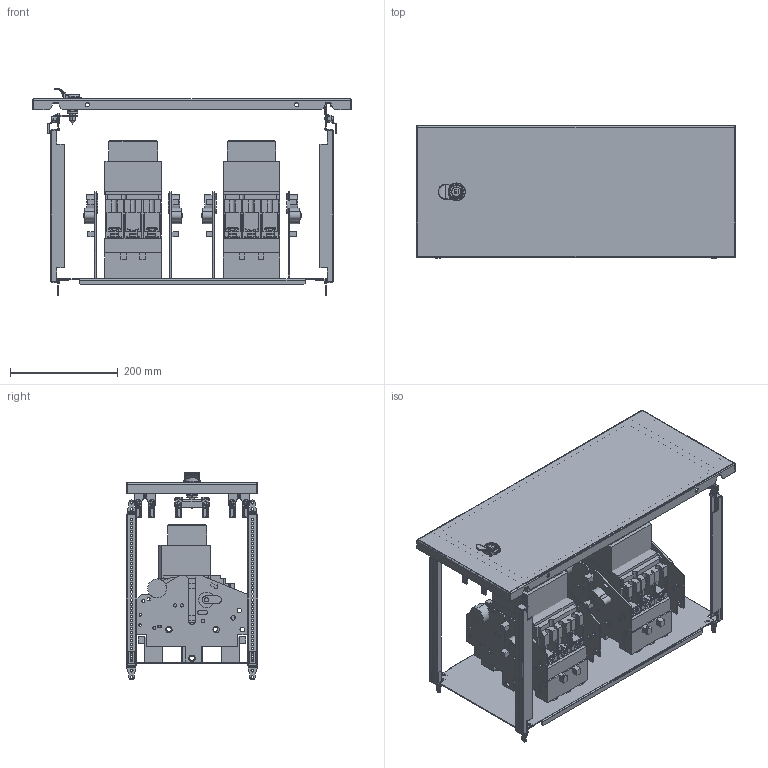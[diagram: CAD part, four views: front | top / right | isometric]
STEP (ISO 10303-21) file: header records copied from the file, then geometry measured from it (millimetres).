
FILE_DESCRIPTION(('CAx-IF Rec.Pracs.---Model Styling and Organization---1.2---2011-12-15','CAx-IF Rec.Pracs.---Geometric and Assembly Validation Properties---4.1---2014-06-16','CAx-IF Rec.Pracs.---PMI Polyline Presentation---2.0---2013-05-24'),'2;1');
FILE_NAME('R5PKEB7V61913 (W-MO).stp','2021-07-29T02:34:04+03:00',(''),(''),'STEP Interface 4.4 by CT CoreTechnologie','3D_Evolution4.4 by CT CoreTechnologie','');
FILE_SCHEMA(('AUTOMOTIVE_DESIGN { 1 0 10303 214 1 1 1 1 }'));
Length unit declared in the file: millimetre
Products named in the file (1): R5PKEB7V61913 (W-MO)
Bounding box: 594 x 245 x 386.9 mm (x, y, z)
Surface area: 1721764.7 mm2 (no closed solid volume)
Topology: 0 solids, 111 shells, 4246 faces, 11867 edges, 7849 vertices
Faces by surface type: plane 2523, cylinder 1325, bspline 398
Entity records: 146862 total; most frequent: CARTESIAN_POINT 35695, ORIENTED_EDGE 23632, DIRECTION 22297, EDGE_CURVE 11824, VECTOR 8499, LINE 8499, VERTEX_POINT 7885, AXIS2_PLACEMENT_3D 6899
